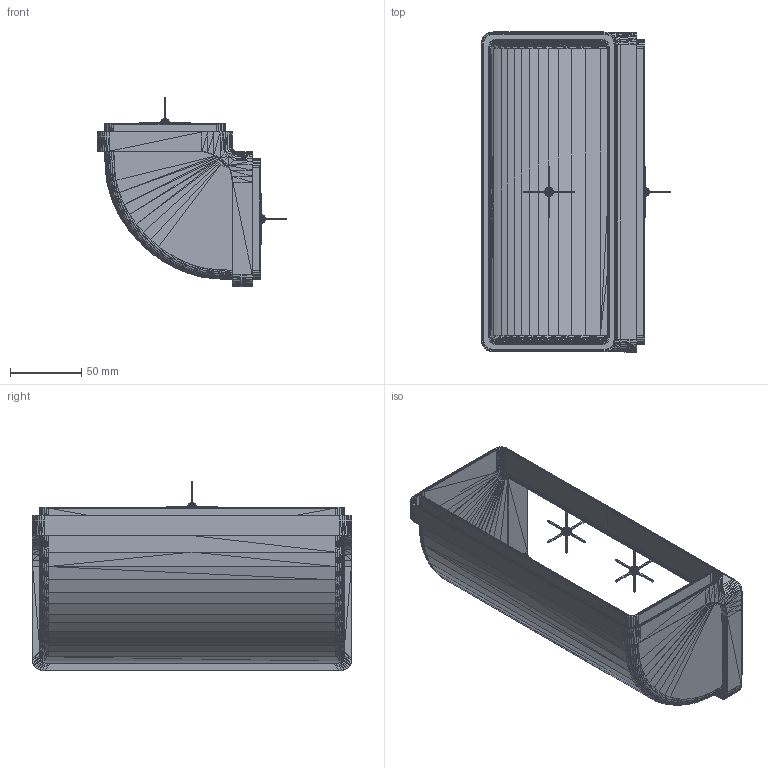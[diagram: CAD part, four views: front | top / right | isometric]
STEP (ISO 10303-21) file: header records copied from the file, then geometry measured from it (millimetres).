
FILE_DESCRIPTION(('FreeCAD Model'),'2;1');
FILE_NAME('Open CASCADE Shape Model','2024-04-12T14:04:39',('Author'),( ''),'Open CASCADE STEP processor 7.6','FreeCAD','Unknown');
FILE_SCHEMA(('AUTOMOTIVE_DESIGN { 1 0 10303 214 1 1 1 1 }'));
Length unit declared in the file: millimetre
Products named in the file (5): Unnamed; Tube_002 (Solid); _Cross_b_002 (Solid); _Cross_f_002 (Solid); Object001_002 (Solid)
Assembly tree (4 placements, depth 2):
  Unnamed
    Tube_002 (Solid)
    _Cross_b_002 (Solid)
    _Cross_f_002 (Solid)
    Object001_002 (Solid)
Bounding box: 133.12 x 225 x 133.22 mm (x, y, z)
Volume: 115158.4 mm3; surface area: 183038.6 mm2
Topology: 3 solids, 4 shells, 7501 faces, 11901 edges, 4405 vertices
Faces by surface type: plane 7501
Entity records: 152117 total; most frequent: DIRECTION 26909, CARTESIAN_POINT 23808, ORIENTED_EDGE 23672, EDGE_CURVE 11899, LINE 11899, VECTOR 11899, AXIS2_PLACEMENT_3D 7505, FACE_BOUND 7502
